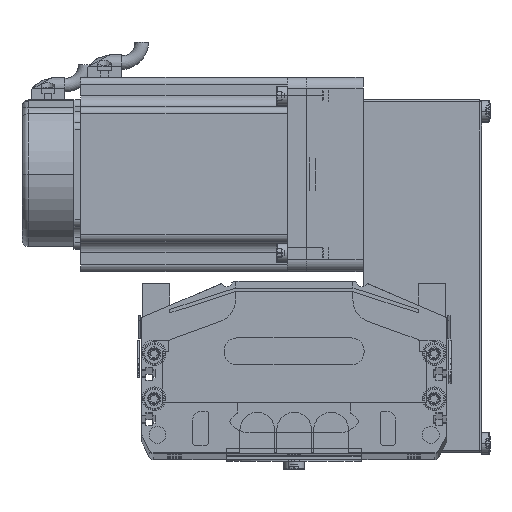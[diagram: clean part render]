
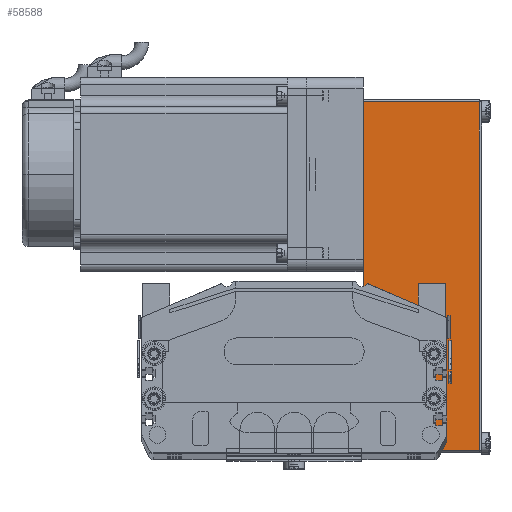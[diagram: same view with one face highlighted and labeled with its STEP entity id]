
A CAD part, top view. The second image highlights one B-rep face of the part: STEP entity #58588.
In plain terms, the highlighted planar face has unit normal (0, 0, 1) as drawn and (0, -1, 0) by its records, which use the part's own axes.
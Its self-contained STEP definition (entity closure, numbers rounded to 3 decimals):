
#1738 = DIRECTION ( 'NONE',  ( -1., 0., 0. ) ) ;
#1739 = VECTOR ( 'NONE', #1738, 1000. ) ;
#1786 = CARTESIAN_POINT ( 'NONE',  ( 32., -40., 51.5 ) ) ;
#1787 = LINE ( 'NONE', #1786, #1739 ) ;
#1845 = CARTESIAN_POINT ( 'NONE',  ( -123.2, -40., 51.5 ) ) ;
#1892 = DIRECTION ( 'NONE',  ( -1., 0., 0. ) ) ;
#1900 = DIRECTION ( 'NONE',  ( 0., 1., 0. ) ) ;
#1901 = CARTESIAN_POINT ( 'NONE',  ( 32., -40., 52.5 ) ) ;
#1903 = PLANE ( 'NONE',  #1911 ) ;
#1911 = AXIS2_PLACEMENT_3D ( 'NONE', #1901, #1900, #1892 ) ;
#1938 = LINE ( 'NONE', #1991, #1990 ) ;
#1990 = VECTOR ( 'NONE', #2001, 1000. ) ;
#1991 = CARTESIAN_POINT ( 'NONE',  ( 31., -40., 52.5 ) ) ;
#2001 = DIRECTION ( 'NONE',  ( 0., 0., 1. ) ) ;
#2025 = FACE_OUTER_BOUND ( 'NONE', #58471, .T. ) ;
#2101 = DIRECTION ( 'NONE',  ( 0., 0., -1. ) ) ;
#2102 = VECTOR ( 'NONE', #2101, 1000. ) ;
#2103 = CARTESIAN_POINT ( 'NONE',  ( -123.2, -40., 52.5 ) ) ;
#2104 = CARTESIAN_POINT ( 'NONE',  ( -123.2, -40., 0. ) ) ;
#2107 = LINE ( 'NONE', #2103, #2102 ) ;
#2108 = CARTESIAN_POINT ( 'NONE',  ( 31., -40., 0. ) ) ;
#2179 = CARTESIAN_POINT ( 'NONE',  ( 31., -40., 51.5 ) ) ;
#2223 = DIRECTION ( 'NONE',  ( 1., 0., 0. ) ) ;
#2224 = VECTOR ( 'NONE', #2223, 1000. ) ;
#2225 = CARTESIAN_POINT ( 'NONE',  ( 32., -40., 0. ) ) ;
#2226 = LINE ( 'NONE', #2225, #2224 ) ;
#58464 = EDGE_CURVE ( 'NONE', #58643, #58606, #1787, .T. ) ;
#58471 = EDGE_LOOP ( 'NONE', ( #58662, #58474, #58607, #58589 ) ) ;
#58474 = ORIENTED_EDGE ( 'NONE', *, *, #58520, .T. ) ;
#58520 = EDGE_CURVE ( 'NONE', #58658, #58643, #1938, .T. ) ;
#58588 = ADVANCED_FACE ( 'NONE', ( #2025 ), #1903, .F. ) ;
#58589 = ORIENTED_EDGE ( 'NONE', *, *, #58657, .T. ) ;
#58606 = VERTEX_POINT ( 'NONE', #1845 ) ;
#58607 = ORIENTED_EDGE ( 'NONE', *, *, #58464, .T. ) ;
#58643 = VERTEX_POINT ( 'NONE', #2179 ) ;
#58657 = EDGE_CURVE ( 'NONE', #58606, #58659, #2107, .T. ) ;
#58658 = VERTEX_POINT ( 'NONE', #2108 ) ;
#58659 = VERTEX_POINT ( 'NONE', #2104 ) ;
#58662 = ORIENTED_EDGE ( 'NONE', *, *, #58676, .T. ) ;
#58676 = EDGE_CURVE ( 'NONE', #58659, #58658, #2226, .T. ) ;
